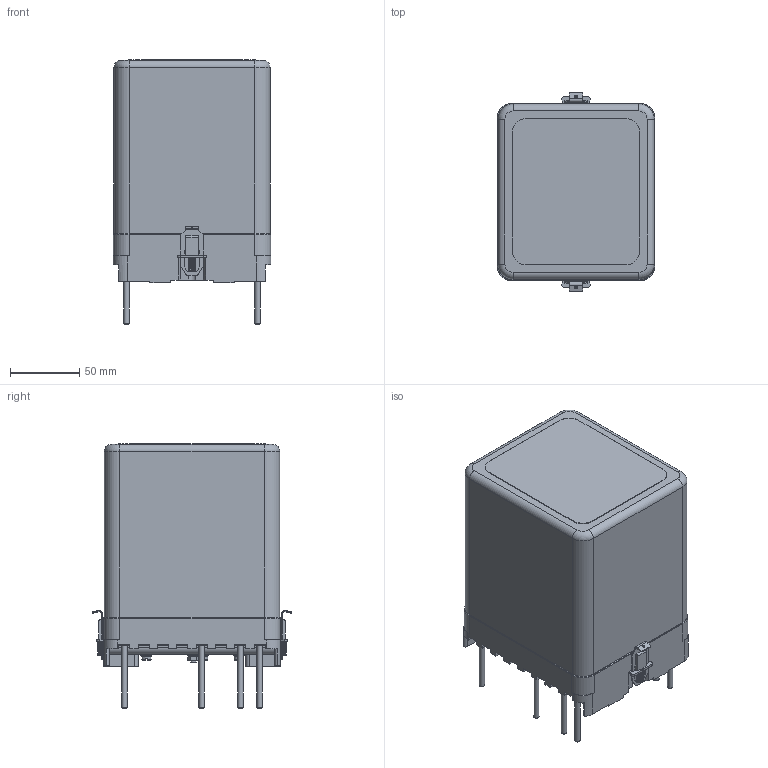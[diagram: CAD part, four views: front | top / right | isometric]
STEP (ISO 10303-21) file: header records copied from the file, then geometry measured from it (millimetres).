
FILE_DESCRIPTION(('STEP AP214'), '1');
FILE_NAME('ÐÍ-73, ÐÍ-74 çàäí. ïðèñîåä. øïèë', '', ('UNSPECIFIED'), ('UNSPECIFIED'), 'ASCON STEP Converter 1.3', 'ASCON Math Kernel', '');
FILE_SCHEMA(('AUTOMOTIVE_DESIGN { 1 0 10303 214 3 1 1}'));
Length unit declared in the file: millimetre
Bounding box: 114 x 144 x 191.5 mm (x, y, z)
Volume: 313743.9 mm3; surface area: 206304.5 mm2
Topology: 1 solids, 1 shells, 998 faces, 2700 edges, 1730 vertices
Faces by surface type: plane 631, cylinder 242, torus 66, cone 36, bspline 14, sphere 9
Full cylindrical faces by diameter (mm): 2 x2, 3.3 x1, 3.5 x2, 4 x19, 4.134 x2, 4.3 x12, 4.5 x5, 5.5 x11, 8 x12, 11 x2
Entity records: 50799 total; most frequent: CARTESIAN_POINT 18137, ORIENTED_EDGE 5128, DIRECTION 4984, EDGE_CURVE 2564, VERTEX_POINT 1723, AXIS2_PLACEMENT_3D 1705, LINE 1574, VECTOR 1574
